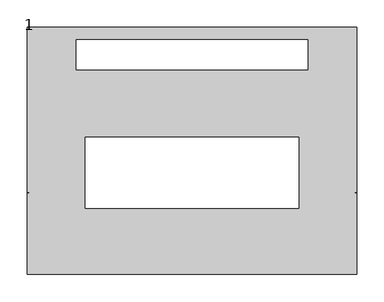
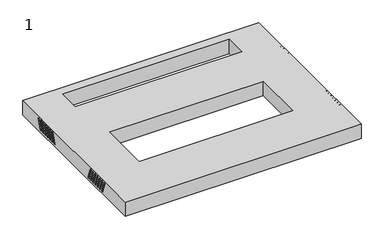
"""IFC4 building model written with IfcOpenShell, lengths in millimetres: proxy geometry, 1."""

from ifc_helpers import new_model, si_unit, frame, origin, place, context, project, spatial, polyline, circle_curve, source, transform, mapped, element, save
from ifc_brep_helpers import plane_surface, revolved_surface, advanced_brep


def proxy_1_433dcf03(model_context):
    return source(origin(), model_context, "Body", "AdvancedBrep", [
        advanced_brep(
        [(298.0, -135.8, 479.7479679), (298.0, -126.9074763, 455.3159597), (298.0, -123.1487058, 456.6840403), (298.0, -132.0412295, 481.1160484), (298.0, -125.8, 479.7479679), (298.0, -116.9074763, 455.3159597), (298.0, -113.1487058, 456.6840403), (298.0, -122.0412295, 481.1160484), (298.0, -115.8, 479.7479679), (298.0, -106.9074763, 455.3159597), (298.0, -103.1487058, 456.6840403), (298.0, -112.0412295, 481.1160484), (298.0, -105.8, 479.7479679), (298.0, -96.9074763, 455.3159597), (298.0, -93.1487058, 456.6840403), (298.0, -102.0412295, 481.1160484), (298.0, -95.8, 479.7479679), (298.0, -86.9074763, 455.3159597), (298.0, -83.1487058, 456.6840403), (298.0, -92.0412295, 481.1160484), (298.0, -85.8, 479.7479679), (298.0, -76.9074763, 455.3159597), (298.0, -73.1487058, 456.6840403), (298.0, -82.0412295, 481.1160484), (298.0, -75.8, 479.7479679), (298.0, -66.9074763, 455.3159597), (298.0, -63.1487058, 456.6840403), (298.0, -72.0412295, 481.1160484), (300.0, -132.0412295, 481.1160484), (300.0, -135.8, 479.7479679), (300.0, -123.1487058, 456.6840403), (300.0, -126.9074763, 455.3159597), (300.0, -122.0412295, 481.1160484), (300.0, -125.8, 479.7479679), (300.0, -113.1487058, 456.6840403), (300.0, -116.9074763, 455.3159597), (300.0, -112.0412295, 481.1160484), (300.0, -115.8, 479.7479679), (300.0, -103.1487058, 456.6840403), (300.0, -106.9074763, 455.3159597), (300.0, -102.0412295, 481.1160484), (300.0, -105.8, 479.7479679), (300.0, -93.1487058, 456.6840403), (300.0, -96.9074763, 455.3159597), (300.0, -92.0412295, 481.1160484), (300.0, -95.8, 479.7479679), (300.0, -83.1487058, 456.6840403), (300.0, -86.9074763, 455.3159597), (300.0, -82.0412295, 481.1160484), (300.0, -85.8, 479.7479679), (300.0, -73.1487058, 456.6840403), (300.0, -76.9074763, 455.3159597), (300.0, -72.0412295, 481.1160484), (300.0, -75.8, 479.7479679), (300.0, -63.1487058, 456.6840403), (300.0, -66.9074763, 455.3159597), (300.0, 225.0, 448.0), (300.0, -225.0, 448.0), (-300.0, -225.0, 448.0), (-300.0, 225.0, 448.0), (-211.0, 147.5, 448.0), (211.0, 147.5, 448.0), (211.0, 202.5, 448.0), (-211.0, 202.5, 448.0), (195.0, 25.0, 448.0), (-195.0, 25.0, 448.0), (-195.0, -105.0, 448.0), (195.0, -105.0, 448.0), (300.0, 225.0, 486.0), (-300.0, 225.0, 486.0), (-300.0, -225.0, 486.0), (300.0, -225.0, 486.0), (-211.0, 147.5, 486.0), (-211.0, 202.5, 486.0), (211.0, 202.5, 486.0), (211.0, 147.5, 486.0), (195.0, 25.0, 486.0), (195.0, -105.0, 486.0), (-195.0, -105.0, 486.0), (-195.0, 25.0, 486.0), (-300.0, -66.9074763, 455.3159597), (-300.0, -63.1487058, 456.6840403), (-300.0, -72.0412295, 481.1160484), (-300.0, -75.8, 479.7479679), (-300.0, -76.9074763, 455.3159597), (-300.0, -73.1487058, 456.6840403), (-300.0, -82.0412295, 481.1160484), (-300.0, -85.8, 479.7479679), (-300.0, -86.9074763, 455.3159597), (-300.0, -83.1487058, 456.6840403), (-300.0, -92.0412295, 481.1160484), (-300.0, -95.8, 479.7479679), (-300.0, -96.9074763, 455.3159597), (-300.0, -93.1487058, 456.6840403), (-300.0, -102.0412295, 481.1160484), (-300.0, -105.8, 479.7479679), (-300.0, -106.9074763, 455.3159597), (-300.0, -103.1487058, 456.6840403), (-300.0, -112.0412295, 481.1160484), (-300.0, -115.8, 479.7479679), (-300.0, -116.9074763, 455.3159597), (-300.0, -113.1487058, 456.6840403), (-300.0, -122.0412295, 481.1160484), (-300.0, -125.8, 479.7479679), (-300.0, -126.9074763, 455.3159597), (-300.0, -123.1487058, 456.6840403), (-300.0, -132.0412295, 481.1160484), (-300.0, -135.8, 479.7479679), (-300.0, 96.0, 479.7479679), (-300.0, 92.2412295, 481.1160484), (-300.0, 83.3487058, 456.6840403), (-300.0, 87.1074763, 455.3159597), (-300.0, 106.0, 479.7479679), (-300.0, 102.2412295, 481.1160484), (-300.0, 93.3487058, 456.6840403), (-300.0, 97.1074763, 455.3159597), (-300.0, 116.0, 479.7479679), (-300.0, 112.2412295, 481.1160484), (-300.0, 103.3487058, 456.6840403), (-300.0, 107.1074763, 455.3159597), (-300.0, 126.0, 479.7479679), (-300.0, 122.2412295, 481.1160484), (-300.0, 113.3487058, 456.6840403), (-300.0, 117.1074763, 455.3159597), (-300.0, 136.0, 479.7479679), (-300.0, 132.2412295, 481.1160484), (-300.0, 123.3487058, 456.6840403), (-300.0, 127.1074763, 455.3159597), (-300.0, 146.0, 479.7479679), (-300.0, 142.2412295, 481.1160484), (-300.0, 133.3487058, 456.6840403), (-300.0, 137.1074763, 455.3159597), (-300.0, 156.0, 479.7479679), (-300.0, 152.2412295, 481.1160484), (-300.0, 143.3487058, 456.6840403), (-300.0, 147.1074763, 455.3159597), (300.0, 152.2412295, 481.1160484), (300.0, 156.0, 479.7479679), (300.0, 147.1074763, 455.3159597), (300.0, 143.3487058, 456.6840403), (300.0, 142.2412295, 481.1160484), (300.0, 146.0, 479.7479679), (300.0, 137.1074763, 455.3159597), (300.0, 133.3487058, 456.6840403), (300.0, 132.2412295, 481.1160484), (300.0, 136.0, 479.7479679), (300.0, 127.1074763, 455.3159597), (300.0, 123.3487058, 456.6840403), (300.0, 122.2412295, 481.1160484), (300.0, 126.0, 479.7479679), (300.0, 117.1074763, 455.3159597), (300.0, 113.3487058, 456.6840403), (300.0, 112.2412295, 481.1160484), (300.0, 116.0, 479.7479679), (300.0, 107.1074763, 455.3159597), (300.0, 103.3487058, 456.6840403), (300.0, 102.2412295, 481.1160484), (300.0, 106.0, 479.7479679), (300.0, 97.1074763, 455.3159597), (300.0, 93.3487058, 456.6840403), (300.0, 92.2412295, 481.1160484), (300.0, 96.0, 479.7479679), (300.0, 87.1074763, 455.3159597), (300.0, 83.3487058, 456.6840403), (298.0, 156.0, 479.7479679), (298.0, 152.2412295, 481.1160484), (298.0, 143.3487058, 456.6840403), (298.0, 147.1074763, 455.3159597), (298.0, 146.0, 479.7479679), (298.0, 142.2412295, 481.1160484), (298.0, 133.3487058, 456.6840403), (298.0, 137.1074763, 455.3159597), (298.0, 136.0, 479.7479679), (298.0, 132.2412295, 481.1160484), (298.0, 123.3487058, 456.6840403), (298.0, 127.1074763, 455.3159597), (298.0, 126.0, 479.7479679), (298.0, 122.2412295, 481.1160484), (298.0, 113.3487058, 456.6840403), (298.0, 117.1074763, 455.3159597), (298.0, 116.0, 479.7479679), (298.0, 112.2412295, 481.1160484), (298.0, 103.3487058, 456.6840403), (298.0, 107.1074763, 455.3159597), (298.0, 106.0, 479.7479679), (298.0, 102.2412295, 481.1160484), (298.0, 93.3487058, 456.6840403), (298.0, 97.1074763, 455.3159597), (298.0, 96.0, 479.7479679), (298.0, 92.2412295, 481.1160484), (298.0, 83.3487058, 456.6840403), (298.0, 87.1074763, 455.3159597), (-298.0, -63.1487058, 456.6840403), (-298.0, -66.9074763, 455.3159597), (-298.0, -75.8, 479.7479679), (-298.0, -72.0412295, 481.1160484), (-298.0, -73.1487058, 456.6840403), (-298.0, -76.9074763, 455.3159597), (-298.0, -85.8, 479.7479679), (-298.0, -82.0412295, 481.1160484), (-298.0, -83.1487058, 456.6840403), (-298.0, -86.9074763, 455.3159597), (-298.0, -95.8, 479.7479679), (-298.0, -92.0412295, 481.1160484), (-298.0, -93.1487058, 456.6840403), (-298.0, -96.9074763, 455.3159597), (-298.0, -105.8, 479.7479679), (-298.0, -102.0412295, 481.1160484), (-298.0, -103.1487058, 456.6840403), (-298.0, -106.9074763, 455.3159597), (-298.0, -115.8, 479.7479679), (-298.0, -112.0412295, 481.1160484), (-298.0, -113.1487058, 456.6840403), (-298.0, -116.9074763, 455.3159597), (-298.0, -125.8, 479.7479679), (-298.0, -122.0412295, 481.1160484), (-298.0, -123.1487058, 456.6840403), (-298.0, -126.9074763, 455.3159597), (-298.0, -135.8, 479.7479679), (-298.0, -132.0412295, 481.1160484), (-298.0, 92.2412295, 481.1160484), (-298.0, 96.0, 479.7479679), (-298.0, 87.1074763, 455.3159597), (-298.0, 83.3487058, 456.6840403), (-298.0, 102.2412295, 481.1160484), (-298.0, 106.0, 479.7479679), (-298.0, 97.1074763, 455.3159597), (-298.0, 93.3487058, 456.6840403), (-298.0, 112.2412295, 481.1160484), (-298.0, 116.0, 479.7479679), (-298.0, 107.1074763, 455.3159597), (-298.0, 103.3487058, 456.6840403), (-298.0, 122.2412295, 481.1160484), (-298.0, 126.0, 479.7479679), (-298.0, 117.1074763, 455.3159597), (-298.0, 113.3487058, 456.6840403), (-298.0, 132.2412295, 481.1160484), (-298.0, 136.0, 479.7479679), (-298.0, 127.1074763, 455.3159597), (-298.0, 123.3487058, 456.6840403), (-298.0, 142.2412295, 481.1160484), (-298.0, 146.0, 479.7479679), (-298.0, 137.1074763, 455.3159597), (-298.0, 133.3487058, 456.6840403), (-298.0, 152.2412295, 481.1160484), (-298.0, 156.0, 479.7479679), (-298.0, 147.1074763, 455.3159597), (-298.0, 143.3487058, 456.6840403)],
        [
            (0, 1),
            (1, 2, circle_curve(frame((298.0, -125.028091, 456.0), z_axis=(1.0, 0.0, 0.0), x_axis=(0.0, -1.0, 0.0)), 2.0)),
            (2, 3),
            (3, 0, circle_curve(frame((298.0, -133.9206148, 480.4320081), z_axis=(1.0, 0.0, 0.0), x_axis=(0.0, -1.0, 0.0)), 2.0)),
            (4, 5),
            (5, 6, circle_curve(frame((298.0, -115.028091, 456.0), z_axis=(1.0, 0.0, 0.0), x_axis=(0.0, -1.0, 0.0)), 2.0)),
            (6, 7),
            (7, 4, circle_curve(frame((298.0, -123.9206148, 480.4320081), z_axis=(1.0, 0.0, 0.0), x_axis=(0.0, -1.0, 0.0)), 2.0)),
            (8, 9),
            (9, 10, circle_curve(frame((298.0, -105.028091, 456.0), z_axis=(1.0, 0.0, 0.0), x_axis=(0.0, -1.0, 0.0)), 2.0)),
            (10, 11),
            (11, 8, circle_curve(frame((298.0, -113.9206148, 480.4320081), z_axis=(1.0, 0.0, 0.0), x_axis=(0.0, -1.0, 0.0)), 2.0)),
            (12, 13),
            (13, 14, circle_curve(frame((298.0, -95.028091, 456.0), z_axis=(1.0, 0.0, 0.0), x_axis=(0.0, -1.0, 0.0)), 2.0)),
            (14, 15),
            (15, 12, circle_curve(frame((298.0, -103.9206148, 480.4320081), z_axis=(1.0, 0.0, 0.0), x_axis=(0.0, -1.0, 0.0)), 2.0)),
            (16, 17),
            (17, 18, circle_curve(frame((298.0, -85.028091, 456.0), z_axis=(1.0, 0.0, 0.0), x_axis=(0.0, -1.0, 0.0)), 2.0)),
            (18, 19),
            (19, 16, circle_curve(frame((298.0, -93.9206148, 480.4320081), z_axis=(1.0, 0.0, 0.0), x_axis=(0.0, -1.0, 0.0)), 2.0)),
            (20, 21),
            (21, 22, circle_curve(frame((298.0, -75.028091, 456.0), z_axis=(1.0, 0.0, 0.0), x_axis=(0.0, -1.0, 0.0)), 2.0)),
            (22, 23),
            (23, 20, circle_curve(frame((298.0, -83.9206148, 480.4320081), z_axis=(1.0, 0.0, 0.0), x_axis=(0.0, -1.0, 0.0)), 2.0)),
            (24, 25),
            (25, 26, circle_curve(frame((298.0, -65.028091, 456.0), z_axis=(1.0, 0.0, 0.0), x_axis=(0.0, -1.0, 0.0)), 2.0)),
            (26, 27),
            (27, 24, circle_curve(frame((298.0, -73.9206148, 480.4320081), z_axis=(1.0, 0.0, 0.0), x_axis=(0.0, -1.0, 0.0)), 2.0)),
            (3, 28),
            (28, 29, circle_curve(frame((300.0, -133.9206148, 480.4320081), z_axis=(1.0, 0.0, 0.0), x_axis=(0.0, -1.0, 0.0)), 2.0)),
            (29, 0),
            (2, 30),
            (30, 28),
            (1, 31),
            (31, 30, circle_curve(frame((300.0, -125.028091, 456.0), z_axis=(1.0, 0.0, 0.0), x_axis=(0.0, -1.0, 0.0)), 2.0)),
            (29, 31),
            (7, 32),
            (32, 33, circle_curve(frame((300.0, -123.9206148, 480.4320081), z_axis=(1.0, 0.0, 0.0), x_axis=(0.0, -1.0, 0.0)), 2.0)),
            (33, 4),
            (6, 34),
            (34, 32),
            (5, 35),
            (35, 34, circle_curve(frame((300.0, -115.028091, 456.0), z_axis=(1.0, 0.0, 0.0), x_axis=(0.0, -1.0, 0.0)), 2.0)),
            (33, 35),
            (11, 36),
            (36, 37, circle_curve(frame((300.0, -113.9206148, 480.4320081), z_axis=(1.0, 0.0, 0.0), x_axis=(0.0, -1.0, 0.0)), 2.0)),
            (37, 8),
            (10, 38),
            (38, 36),
            (9, 39),
            (39, 38, circle_curve(frame((300.0, -105.028091, 456.0), z_axis=(1.0, 0.0, 0.0), x_axis=(0.0, -1.0, 0.0)), 2.0)),
            (37, 39),
            (15, 40),
            (40, 41, circle_curve(frame((300.0, -103.9206148, 480.4320081), z_axis=(1.0, 0.0, 0.0), x_axis=(0.0, -1.0, 0.0)), 2.0)),
            (41, 12),
            (14, 42),
            (42, 40),
            (13, 43),
            (43, 42, circle_curve(frame((300.0, -95.028091, 456.0), z_axis=(1.0, 0.0, 0.0), x_axis=(0.0, -1.0, 0.0)), 2.0)),
            (41, 43),
            (19, 44),
            (44, 45, circle_curve(frame((300.0, -93.9206148, 480.4320081), z_axis=(1.0, 0.0, 0.0), x_axis=(0.0, -1.0, 0.0)), 2.0)),
            (45, 16),
            (18, 46),
            (46, 44),
            (17, 47),
            (47, 46, circle_curve(frame((300.0, -85.028091, 456.0), z_axis=(1.0, 0.0, 0.0), x_axis=(0.0, -1.0, 0.0)), 2.0)),
            (45, 47),
            (23, 48),
            (48, 49, circle_curve(frame((300.0, -83.9206148, 480.4320081), z_axis=(1.0, 0.0, 0.0), x_axis=(0.0, -1.0, 0.0)), 2.0)),
            (49, 20),
            (22, 50),
            (50, 48),
            (21, 51),
            (51, 50, circle_curve(frame((300.0, -75.028091, 456.0), z_axis=(1.0, 0.0, 0.0), x_axis=(0.0, -1.0, 0.0)), 2.0)),
            (49, 51),
            (27, 52),
            (52, 53, circle_curve(frame((300.0, -73.9206148, 480.4320081), z_axis=(1.0, 0.0, 0.0), x_axis=(0.0, -1.0, 0.0)), 2.0)),
            (53, 24),
            (26, 54),
            (54, 52),
            (25, 55),
            (55, 54, circle_curve(frame((300.0, -65.028091, 456.0), z_axis=(1.0, 0.0, 0.0), x_axis=(0.0, -1.0, 0.0)), 2.0)),
            (53, 55),
            (56, 57),
            (57, 58),
            (58, 59),
            (59, 56),
            (60, 61),
            (61, 62),
            (62, 63),
            (63, 60),
            (64, 65),
            (65, 66),
            (66, 67),
            (67, 64),
            (68, 69),
            (69, 70),
            (70, 71),
            (71, 68),
            (72, 73),
            (73, 74),
            (74, 75),
            (75, 72),
            (76, 77),
            (77, 78),
            (78, 79),
            (79, 76),
            (59, 69),
            (68, 56),
            (58, 70),
            (80, 81, circle_curve(frame((-300.0, -65.028091, 456.0), z_axis=(1.0, 0.0, 0.0), x_axis=(0.0, 1.0, 0.0)), 2.0)),
            (81, 82),
            (82, 83, circle_curve(frame((-300.0, -73.9206148, 480.4320081), z_axis=(1.0, 0.0, 0.0), x_axis=(0.0, 1.0, 0.0)), 2.0)),
            (83, 80),
            (84, 85, circle_curve(frame((-300.0, -75.028091, 456.0), z_axis=(1.0, 0.0, 0.0), x_axis=(0.0, 1.0, 0.0)), 2.0)),
            (85, 86),
            (86, 87, circle_curve(frame((-300.0, -83.9206148, 480.4320081), z_axis=(1.0, 0.0, 0.0), x_axis=(0.0, 1.0, 0.0)), 2.0)),
            (87, 84),
            (88, 89, circle_curve(frame((-300.0, -85.028091, 456.0), z_axis=(1.0, 0.0, 0.0), x_axis=(0.0, 1.0, 0.0)), 2.0)),
            (89, 90),
            (90, 91, circle_curve(frame((-300.0, -93.9206148, 480.4320081), z_axis=(1.0, 0.0, 0.0), x_axis=(0.0, 1.0, 0.0)), 2.0)),
            (91, 88),
            (92, 93, circle_curve(frame((-300.0, -95.028091, 456.0), z_axis=(1.0, 0.0, 0.0), x_axis=(0.0, 1.0, 0.0)), 2.0)),
            (93, 94),
            (94, 95, circle_curve(frame((-300.0, -103.9206148, 480.4320081), z_axis=(1.0, 0.0, 0.0), x_axis=(0.0, 1.0, 0.0)), 2.0)),
            (95, 92),
            (96, 97, circle_curve(frame((-300.0, -105.028091, 456.0), z_axis=(1.0, 0.0, 0.0), x_axis=(0.0, 1.0, 0.0)), 2.0)),
            (97, 98),
            (98, 99, circle_curve(frame((-300.0, -113.9206148, 480.4320081), z_axis=(1.0, 0.0, 0.0), x_axis=(0.0, 1.0, 0.0)), 2.0)),
            (99, 96),
            (100, 101, circle_curve(frame((-300.0, -115.028091, 456.0), z_axis=(1.0, 0.0, 0.0), x_axis=(0.0, 1.0, 0.0)), 2.0)),
            (101, 102),
            (102, 103, circle_curve(frame((-300.0, -123.9206148, 480.4320081), z_axis=(1.0, 0.0, 0.0), x_axis=(0.0, 1.0, 0.0)), 2.0)),
            (103, 100),
            (104, 105, circle_curve(frame((-300.0, -125.028091, 456.0), z_axis=(1.0, 0.0, 0.0), x_axis=(0.0, 1.0, 0.0)), 2.0)),
            (105, 106),
            (106, 107, circle_curve(frame((-300.0, -133.9206148, 480.4320081), z_axis=(1.0, 0.0, 0.0), x_axis=(0.0, 1.0, 0.0)), 2.0)),
            (107, 104),
            (108, 109, circle_curve(frame((-300.0, 94.1206148, 480.4320081), z_axis=(1.0, 0.0, 0.0), x_axis=(0.0, 1.0, 0.0)), 2.0)),
            (109, 110),
            (110, 111, circle_curve(frame((-300.0, 85.228091, 456.0), z_axis=(1.0, 0.0, 0.0), x_axis=(0.0, 1.0, 0.0)), 2.0)),
            (111, 108),
            (112, 113, circle_curve(frame((-300.0, 104.1206148, 480.4320081), z_axis=(1.0, 0.0, 0.0), x_axis=(0.0, 1.0, 0.0)), 2.0)),
            (113, 114),
            (114, 115, circle_curve(frame((-300.0, 95.228091, 456.0), z_axis=(1.0, 0.0, 0.0), x_axis=(0.0, 1.0, 0.0)), 2.0)),
            (115, 112),
            (116, 117, circle_curve(frame((-300.0, 114.1206148, 480.4320081), z_axis=(1.0, 0.0, 0.0), x_axis=(0.0, 1.0, 0.0)), 2.0)),
            (117, 118),
            (118, 119, circle_curve(frame((-300.0, 105.228091, 456.0), z_axis=(1.0, 0.0, 0.0), x_axis=(0.0, 1.0, 0.0)), 2.0)),
            (119, 116),
            (120, 121, circle_curve(frame((-300.0, 124.1206148, 480.4320081), z_axis=(1.0, 0.0, 0.0), x_axis=(0.0, 1.0, 0.0)), 2.0)),
            (121, 122),
            (122, 123, circle_curve(frame((-300.0, 115.228091, 456.0), z_axis=(1.0, 0.0, 0.0), x_axis=(0.0, 1.0, 0.0)), 2.0)),
            (123, 120),
            (124, 125, circle_curve(frame((-300.0, 134.1206148, 480.4320081), z_axis=(1.0, 0.0, 0.0), x_axis=(0.0, 1.0, 0.0)), 2.0)),
            (125, 126),
            (126, 127, circle_curve(frame((-300.0, 125.228091, 456.0), z_axis=(1.0, 0.0, 0.0), x_axis=(0.0, 1.0, 0.0)), 2.0)),
            (127, 124),
            (128, 129, circle_curve(frame((-300.0, 144.1206148, 480.4320081), z_axis=(1.0, 0.0, 0.0), x_axis=(0.0, 1.0, 0.0)), 2.0)),
            (129, 130),
            (130, 131, circle_curve(frame((-300.0, 135.228091, 456.0), z_axis=(1.0, 0.0, 0.0), x_axis=(0.0, 1.0, 0.0)), 2.0)),
            (131, 128),
            (132, 133, circle_curve(frame((-300.0, 154.1206148, 480.4320081), z_axis=(1.0, 0.0, 0.0), x_axis=(0.0, 1.0, 0.0)), 2.0)),
            (133, 134),
            (134, 135, circle_curve(frame((-300.0, 145.228091, 456.0), z_axis=(1.0, 0.0, 0.0), x_axis=(0.0, 1.0, 0.0)), 2.0)),
            (135, 132),
            (57, 71),
            (136, 137, circle_curve(frame((300.0, 154.1206148, 480.4320081), z_axis=(-1.0, 0.0, 0.0), x_axis=(0.0, 1.0, 0.0)), 2.0)),
            (137, 138),
            (138, 139, circle_curve(frame((300.0, 145.228091, 456.0), z_axis=(-1.0, 0.0, 0.0), x_axis=(0.0, 1.0, 0.0)), 2.0)),
            (139, 136),
            (140, 141, circle_curve(frame((300.0, 144.1206148, 480.4320081), z_axis=(-1.0, 0.0, 0.0), x_axis=(0.0, 1.0, 0.0)), 2.0)),
            (141, 142),
            (142, 143, circle_curve(frame((300.0, 135.228091, 456.0), z_axis=(-1.0, 0.0, 0.0), x_axis=(0.0, 1.0, 0.0)), 2.0)),
            (143, 140),
            (144, 145, circle_curve(frame((300.0, 134.1206148, 480.4320081), z_axis=(-1.0, 0.0, 0.0), x_axis=(0.0, 1.0, 0.0)), 2.0)),
            (145, 146),
            (146, 147, circle_curve(frame((300.0, 125.228091, 456.0), z_axis=(-1.0, 0.0, 0.0), x_axis=(0.0, 1.0, 0.0)), 2.0)),
            (147, 144),
            (148, 149, circle_curve(frame((300.0, 124.1206148, 480.4320081), z_axis=(-1.0, 0.0, 0.0), x_axis=(0.0, 1.0, 0.0)), 2.0)),
            (149, 150),
            (150, 151, circle_curve(frame((300.0, 115.228091, 456.0), z_axis=(-1.0, 0.0, 0.0), x_axis=(0.0, 1.0, 0.0)), 2.0)),
            (151, 148),
            (152, 153, circle_curve(frame((300.0, 114.1206148, 480.4320081), z_axis=(-1.0, 0.0, 0.0), x_axis=(0.0, 1.0, 0.0)), 2.0)),
            (153, 154),
            (154, 155, circle_curve(frame((300.0, 105.228091, 456.0), z_axis=(-1.0, 0.0, 0.0), x_axis=(0.0, 1.0, 0.0)), 2.0)),
            (155, 152),
            (156, 157, circle_curve(frame((300.0, 104.1206148, 480.4320081), z_axis=(-1.0, 0.0, 0.0), x_axis=(0.0, 1.0, 0.0)), 2.0)),
            (157, 158),
            (158, 159, circle_curve(frame((300.0, 95.228091, 456.0), z_axis=(-1.0, 0.0, 0.0), x_axis=(0.0, 1.0, 0.0)), 2.0)),
            (159, 156),
            (160, 161, circle_curve(frame((300.0, 94.1206148, 480.4320081), z_axis=(-1.0, 0.0, 0.0), x_axis=(0.0, 1.0, 0.0)), 2.0)),
            (161, 162),
            (162, 163, circle_curve(frame((300.0, 85.228091, 456.0), z_axis=(-1.0, 0.0, 0.0), x_axis=(0.0, 1.0, 0.0)), 2.0)),
            (163, 160),
            (63, 73),
            (72, 60),
            (62, 74),
            (61, 75),
            (67, 77),
            (76, 64),
            (66, 78),
            (65, 79),
            (164, 165, circle_curve(frame((298.0, 154.1206148, 480.4320081), z_axis=(1.0, 0.0, 0.0), x_axis=(0.0, 1.0, 0.0)), 2.0)),
            (165, 166),
            (166, 167, circle_curve(frame((298.0, 145.228091, 456.0), z_axis=(1.0, 0.0, 0.0), x_axis=(0.0, 1.0, 0.0)), 2.0)),
            (167, 164),
            (168, 169, circle_curve(frame((298.0, 144.1206148, 480.4320081), z_axis=(1.0, 0.0, 0.0), x_axis=(0.0, 1.0, 0.0)), 2.0)),
            (169, 170),
            (170, 171, circle_curve(frame((298.0, 135.228091, 456.0), z_axis=(1.0, 0.0, 0.0), x_axis=(0.0, 1.0, 0.0)), 2.0)),
            (171, 168),
            (172, 173, circle_curve(frame((298.0, 134.1206148, 480.4320081), z_axis=(1.0, 0.0, 0.0), x_axis=(0.0, 1.0, 0.0)), 2.0)),
            (173, 174),
            (174, 175, circle_curve(frame((298.0, 125.228091, 456.0), z_axis=(1.0, 0.0, 0.0), x_axis=(0.0, 1.0, 0.0)), 2.0)),
            (175, 172),
            (176, 177, circle_curve(frame((298.0, 124.1206148, 480.4320081), z_axis=(1.0, 0.0, 0.0), x_axis=(0.0, 1.0, 0.0)), 2.0)),
            (177, 178),
            (178, 179, circle_curve(frame((298.0, 115.228091, 456.0), z_axis=(1.0, 0.0, 0.0), x_axis=(0.0, 1.0, 0.0)), 2.0)),
            (179, 176),
            (180, 181, circle_curve(frame((298.0, 114.1206148, 480.4320081), z_axis=(1.0, 0.0, 0.0), x_axis=(0.0, 1.0, 0.0)), 2.0)),
            (181, 182),
            (182, 183, circle_curve(frame((298.0, 105.228091, 456.0), z_axis=(1.0, 0.0, 0.0), x_axis=(0.0, 1.0, 0.0)), 2.0)),
            (183, 180),
            (184, 185, circle_curve(frame((298.0, 104.1206148, 480.4320081), z_axis=(1.0, 0.0, 0.0), x_axis=(0.0, 1.0, 0.0)), 2.0)),
            (185, 186),
            (186, 187, circle_curve(frame((298.0, 95.228091, 456.0), z_axis=(1.0, 0.0, 0.0), x_axis=(0.0, 1.0, 0.0)), 2.0)),
            (187, 184),
            (188, 189, circle_curve(frame((298.0, 94.1206148, 480.4320081), z_axis=(1.0, 0.0, 0.0), x_axis=(0.0, 1.0, 0.0)), 2.0)),
            (189, 190),
            (190, 191, circle_curve(frame((298.0, 85.228091, 456.0), z_axis=(1.0, 0.0, 0.0), x_axis=(0.0, 1.0, 0.0)), 2.0)),
            (191, 188),
            (164, 137),
            (136, 165),
            (139, 166),
            (138, 167),
            (168, 141),
            (140, 169),
            (143, 170),
            (142, 171),
            (172, 145),
            (144, 173),
            (147, 174),
            (146, 175),
            (176, 149),
            (148, 177),
            (151, 178),
            (150, 179),
            (180, 153),
            (152, 181),
            (155, 182),
            (154, 183),
            (184, 157),
            (156, 185),
            (159, 186),
            (158, 187),
            (188, 161),
            (160, 189),
            (163, 190),
            (162, 191),
            (192, 193, circle_curve(frame((-298.0, -65.028091, 456.0), z_axis=(-1.0, 0.0, 0.0), x_axis=(0.0, 1.0, 0.0)), 2.0)),
            (193, 194),
            (194, 195, circle_curve(frame((-298.0, -73.9206148, 480.4320081), z_axis=(-1.0, 0.0, 0.0), x_axis=(0.0, 1.0, 0.0)), 2.0)),
            (195, 192),
            (196, 197, circle_curve(frame((-298.0, -75.028091, 456.0), z_axis=(-1.0, 0.0, 0.0), x_axis=(0.0, 1.0, 0.0)), 2.0)),
            (197, 198),
            (198, 199, circle_curve(frame((-298.0, -83.9206148, 480.4320081), z_axis=(-1.0, 0.0, 0.0), x_axis=(0.0, 1.0, 0.0)), 2.0)),
            (199, 196),
            (200, 201, circle_curve(frame((-298.0, -85.028091, 456.0), z_axis=(-1.0, 0.0, 0.0), x_axis=(0.0, 1.0, 0.0)), 2.0)),
            (201, 202),
            (202, 203, circle_curve(frame((-298.0, -93.9206148, 480.4320081), z_axis=(-1.0, 0.0, 0.0), x_axis=(0.0, 1.0, 0.0)), 2.0)),
            (203, 200),
            (204, 205, circle_curve(frame((-298.0, -95.028091, 456.0), z_axis=(-1.0, 0.0, 0.0), x_axis=(0.0, 1.0, 0.0)), 2.0)),
            (205, 206),
            (206, 207, circle_curve(frame((-298.0, -103.9206148, 480.4320081), z_axis=(-1.0, 0.0, 0.0), x_axis=(0.0, 1.0, 0.0)), 2.0)),
            (207, 204),
            (208, 209, circle_curve(frame((-298.0, -105.028091, 456.0), z_axis=(-1.0, 0.0, 0.0), x_axis=(0.0, 1.0, 0.0)), 2.0)),
            (209, 210),
            (210, 211, circle_curve(frame((-298.0, -113.9206148, 480.4320081), z_axis=(-1.0, 0.0, 0.0), x_axis=(0.0, 1.0, 0.0)), 2.0)),
            (211, 208),
            (212, 213, circle_curve(frame((-298.0, -115.028091, 456.0), z_axis=(-1.0, 0.0, 0.0), x_axis=(0.0, 1.0, 0.0)), 2.0)),
            (213, 214),
            (214, 215, circle_curve(frame((-298.0, -123.9206148, 480.4320081), z_axis=(-1.0, 0.0, 0.0), x_axis=(0.0, 1.0, 0.0)), 2.0)),
            (215, 212),
            (216, 217, circle_curve(frame((-298.0, -125.028091, 456.0), z_axis=(-1.0, 0.0, 0.0), x_axis=(0.0, 1.0, 0.0)), 2.0)),
            (217, 218),
            (218, 219, circle_curve(frame((-298.0, -133.9206148, 480.4320081), z_axis=(-1.0, 0.0, 0.0), x_axis=(0.0, 1.0, 0.0)), 2.0)),
            (219, 216),
            (192, 81),
            (80, 193),
            (83, 194),
            (82, 195),
            (196, 85),
            (84, 197),
            (87, 198),
            (86, 199),
            (200, 89),
            (88, 201),
            (91, 202),
            (90, 203),
            (204, 93),
            (92, 205),
            (95, 206),
            (94, 207),
            (208, 97),
            (96, 209),
            (99, 210),
            (98, 211),
            (212, 101),
            (100, 213),
            (103, 214),
            (102, 215),
            (216, 105),
            (104, 217),
            (107, 218),
            (106, 219),
            (220, 221, circle_curve(frame((-298.0, 94.1206148, 480.4320081), z_axis=(-1.0, 0.0, 0.0), x_axis=(0.0, 1.0, 0.0)), 2.0)),
            (221, 222),
            (222, 223, circle_curve(frame((-298.0, 85.228091, 456.0), z_axis=(-1.0, 0.0, 0.0), x_axis=(0.0, 1.0, 0.0)), 2.0)),
            (223, 220),
            (224, 225, circle_curve(frame((-298.0, 104.1206148, 480.4320081), z_axis=(-1.0, 0.0, 0.0), x_axis=(0.0, 1.0, 0.0)), 2.0)),
            (225, 226),
            (226, 227, circle_curve(frame((-298.0, 95.228091, 456.0), z_axis=(-1.0, 0.0, 0.0), x_axis=(0.0, 1.0, 0.0)), 2.0)),
            (227, 224),
            (228, 229, circle_curve(frame((-298.0, 114.1206148, 480.4320081), z_axis=(-1.0, 0.0, 0.0), x_axis=(0.0, 1.0, 0.0)), 2.0)),
            (229, 230),
            (230, 231, circle_curve(frame((-298.0, 105.228091, 456.0), z_axis=(-1.0, 0.0, 0.0), x_axis=(0.0, 1.0, 0.0)), 2.0)),
            (231, 228),
            (232, 233, circle_curve(frame((-298.0, 124.1206148, 480.4320081), z_axis=(-1.0, 0.0, 0.0), x_axis=(0.0, 1.0, 0.0)), 2.0)),
            (233, 234),
            (234, 235, circle_curve(frame((-298.0, 115.228091, 456.0), z_axis=(-1.0, 0.0, 0.0), x_axis=(0.0, 1.0, 0.0)), 2.0)),
            (235, 232),
            (236, 237, circle_curve(frame((-298.0, 134.1206148, 480.4320081), z_axis=(-1.0, 0.0, 0.0), x_axis=(0.0, 1.0, 0.0)), 2.0)),
            (237, 238),
            (238, 239, circle_curve(frame((-298.0, 125.228091, 456.0), z_axis=(-1.0, 0.0, 0.0), x_axis=(0.0, 1.0, 0.0)), 2.0)),
            (239, 236),
            (240, 241, circle_curve(frame((-298.0, 144.1206148, 480.4320081), z_axis=(-1.0, 0.0, 0.0), x_axis=(0.0, 1.0, 0.0)), 2.0)),
            (241, 242),
            (242, 243, circle_curve(frame((-298.0, 135.228091, 456.0), z_axis=(-1.0, 0.0, 0.0), x_axis=(0.0, 1.0, 0.0)), 2.0)),
            (243, 240),
            (244, 245, circle_curve(frame((-298.0, 154.1206148, 480.4320081), z_axis=(-1.0, 0.0, 0.0), x_axis=(0.0, 1.0, 0.0)), 2.0)),
            (245, 246),
            (246, 247, circle_curve(frame((-298.0, 145.228091, 456.0), z_axis=(-1.0, 0.0, 0.0), x_axis=(0.0, 1.0, 0.0)), 2.0)),
            (247, 244),
            (220, 109),
            (108, 221),
            (111, 222),
            (110, 223),
            (224, 113),
            (112, 225),
            (115, 226),
            (114, 227),
            (228, 117),
            (116, 229),
            (119, 230),
            (118, 231),
            (232, 121),
            (120, 233),
            (123, 234),
            (122, 235),
            (236, 125),
            (124, 237),
            (127, 238),
            (126, 239),
            (240, 129),
            (128, 241),
            (131, 242),
            (130, 243),
            (244, 133),
            (132, 245),
            (135, 246),
            (134, 247),
        ],
        [
            plane_surface(frame((298.0, -126.9074763, 455.3159597), z_axis=(1.0000000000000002, 0.0, 0.0), x_axis=(0.0, -0.3420201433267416, 0.939692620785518))),
            revolved_surface(polyline([(300.0, -135.9206148, 480.4320081), (298.0, -135.9206148, 480.4320081)]), (298.0, -133.9206148, 480.4320081), (1.0, 0.0, 0.0)),
            plane_surface(frame((300.0, -123.1487058, 456.6840403), z_axis=(0.0, -0.939692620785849, -0.34202014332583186), x_axis=(-1.0, 0.0, 0.0))),
            revolved_surface(polyline([(300.0, -127.028091, 456.0), (298.0, -127.028091, 456.0)]), (298.0, -125.028091, 456.0), (1.0, 0.0, 0.0)),
            plane_surface(frame((300.0, -135.8, 479.7479679), z_axis=(0.0, 0.939692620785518, 0.3420201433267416), x_axis=(-1.0, 0.0, 0.0))),
            revolved_surface(polyline([(300.0, -125.9206148, 480.4320081), (298.0, -125.9206148, 480.4320081)]), (300.0, -123.9206148, 480.4320081), (1.0, 0.0, 0.0)),
            plane_surface(frame((300.0, -113.1487058, 456.6840403), z_axis=(0.0, -0.9396926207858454, -0.3420201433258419), x_axis=(-1.0, 0.0, 0.0))),
            revolved_surface(polyline([(300.0, -117.028091, 456.0), (298.0, -117.028091, 456.0)]), (300.0, -115.028091, 456.0), (1.0, 0.0, 0.0)),
            plane_surface(frame((300.0, -125.8, 479.7479679), z_axis=(0.0, 0.9396926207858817, 0.3420201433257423), x_axis=(-1.0, 0.0, 0.0))),
            revolved_surface(polyline([(300.0, -115.9206148, 480.4320081), (298.0, -115.9206148, 480.4320081)]), (300.0, -113.9206148, 480.4320081), (1.0, 0.0, 0.0)),
            plane_surface(frame((300.0, -103.1487058, 456.6840403), z_axis=(0.0, -0.9396926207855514, -0.3420201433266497), x_axis=(-1.0, 0.0, 0.0))),
            revolved_surface(polyline([(300.0, -107.028091, 456.0), (298.0, -107.028091, 456.0)]), (300.0, -105.028091, 456.0), (1.0, 0.0, 0.0)),
            plane_surface(frame((300.0, -115.8, 479.7479679), z_axis=(0.0, 0.93969262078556, 0.34202014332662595), x_axis=(-1.0, 0.0, 0.0))),
            revolved_surface(polyline([(300.0, -105.9206148, 480.4320081), (298.0, -105.9206148, 480.4320081)]), (300.0, -103.9206148, 480.4320081), (1.0, 0.0, 0.0)),
            plane_surface(frame((300.0, -93.1487058, 456.6840403), z_axis=(0.0, -0.9396926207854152, -0.3420201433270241), x_axis=(-1.0, 0.0, 0.0))),
            revolved_surface(polyline([(300.0, -97.028091, 456.0), (298.0, -97.028091, 456.0)]), (300.0, -95.028091, 456.0), (1.0, 0.0, 0.0)),
            plane_surface(frame((300.0, -105.8, 479.7479679), z_axis=(0.0, 0.9396926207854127, 0.3420201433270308), x_axis=(-1.0, 0.0, 0.0))),
            revolved_surface(polyline([(300.0, -95.9206148, 480.4320081), (298.0, -95.9206148, 480.4320081)]), (300.0, -93.9206148, 480.4320081), (1.0, 0.0, 0.0)),
            plane_surface(frame((300.0, -83.1487058, 456.6840403), z_axis=(0.0, -0.9396926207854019, -0.3420201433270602), x_axis=(-1.0, 0.0, 0.0))),
            revolved_surface(polyline([(300.0, -87.028091, 456.0), (298.0, -87.028091, 456.0)]), (300.0, -85.028091, 456.0), (1.0, 0.0, 0.0)),
            plane_surface(frame((300.0, -95.8, 479.7479679), z_axis=(0.0, 0.9396926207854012, 0.3420201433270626), x_axis=(-1.0, 0.0, 0.0))),
            revolved_surface(polyline([(300.0, -85.9206148, 480.4320081), (298.0, -85.9206148, 480.4320081)]), (300.0, -83.9206148, 480.4320081), (1.0, 0.0, 0.0)),
            plane_surface(frame((300.0, -73.1487058, 456.6840403), z_axis=(0.0, -0.9396926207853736, -0.3420201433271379), x_axis=(-1.0, 0.0, 0.0))),
            revolved_surface(polyline([(300.0, -77.028091, 456.0), (298.0, -77.028091, 456.0)]), (300.0, -75.028091, 456.0), (1.0, 0.0, 0.0)),
            plane_surface(frame((300.0, -85.8, 479.7479679), z_axis=(0.0, 0.9396926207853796, 0.3420201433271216), x_axis=(-1.0, 0.0, 0.0))),
            revolved_surface(polyline([(300.0, -75.9206148, 480.4320081), (298.0, -75.9206148, 480.4320081)]), (300.0, -73.9206148, 480.4320081), (1.0, 0.0, 0.0)),
            plane_surface(frame((300.0, -63.1487058, 456.6840403), z_axis=(0.0, -0.9396926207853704, -0.3420201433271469), x_axis=(-1.0, 0.0, 0.0))),
            revolved_surface(polyline([(300.0, -67.028091, 456.0), (298.0, -67.028091, 456.0)]), (300.0, -65.028091, 456.0), (1.0, 0.0, 0.0)),
            plane_surface(frame((300.0, -75.8, 479.7479679), z_axis=(0.0, 0.9396926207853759, 0.3420201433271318), x_axis=(-1.0, 0.0, 0.0))),
            plane_surface(frame((-300.0, 225.0, 448.0), z_axis=(0.0, 0.0, -1.0), x_axis=(1.0, 0.0, 0.0))),
            plane_surface(frame((-300.0, 225.0, 486.0), z_axis=(0.0, 0.0, 1.0), x_axis=(-1.0, 0.0, 0.0))),
            plane_surface(frame((300.0, 225.0, 486.0), z_axis=(0.0, 1.0, 0.0), x_axis=(0.0, 0.0, -1.0))),
            plane_surface(frame((-300.0, 225.0, 486.0), z_axis=(-1.0, 0.0, 0.0), x_axis=(0.0, 0.0, -1.0))),
            plane_surface(frame((-300.0, -225.0, 486.0), z_axis=(0.0, -1.0, 0.0), x_axis=(0.0, 0.0, -1.0))),
            plane_surface(frame((300.0, -225.0, 486.0), z_axis=(1.0, 0.0, 0.0), x_axis=(0.0, 0.0, -1.0))),
            plane_surface(frame((-211.0, 147.5, 486.0), z_axis=(1.0, 0.0, 0.0), x_axis=(0.0, 0.0, -1.0))),
            plane_surface(frame((-211.0, 202.5, 486.0), z_axis=(0.0, -1.0, 0.0), x_axis=(0.0, 0.0, -1.0))),
            plane_surface(frame((211.0, 202.5, 486.0), z_axis=(-1.0, 0.0, 0.0), x_axis=(0.0, 0.0, -1.0))),
            plane_surface(frame((211.0, 147.5, 486.0), z_axis=(0.0, 1.0, 0.0), x_axis=(0.0, 0.0, -1.0))),
            plane_surface(frame((195.0, 25.0, 486.0), z_axis=(-1.0, 0.0, 0.0), x_axis=(0.0, 0.0, -1.0))),
            plane_surface(frame((195.0, -105.0, 486.0), z_axis=(0.0, 1.0, 0.0), x_axis=(0.0, 0.0, -1.0))),
            plane_surface(frame((-195.0, -105.0, 486.0), z_axis=(1.0, 0.0, 0.0), x_axis=(0.0, 0.0, -1.0))),
            plane_surface(frame((-195.0, 25.0, 486.0), z_axis=(0.0, -1.0, 0.0), x_axis=(0.0, 0.0, -1.0))),
            plane_surface(frame((298.0, 156.1206148, 480.4320081), z_axis=(1.0, 0.0, 0.0), x_axis=(0.0, 0.0, -1.0))),
            revolved_surface(polyline([(300.0, 156.1206148, 480.4320081), (298.0, 156.1206148, 480.4320081)]), (298.0, 154.1206148, 480.4320081), (1.0, 0.0, 0.0)),
            plane_surface(frame((300.0, 152.2412295, 481.1160484), z_axis=(0.0, 0.9396926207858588, -0.3420201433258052), x_axis=(-1.0, 0.0, 0.0))),
            revolved_surface(polyline([(300.0, 147.228091, 456.0), (298.0, 147.228091, 456.0)]), (298.0, 145.228091, 456.0), (1.0, 0.0, 0.0)),
            plane_surface(frame((300.0, 147.1074763, 455.3159597), z_axis=(0.0, -0.9396926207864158, 0.3420201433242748), x_axis=(-1.0, 0.0, 0.0))),
            revolved_surface(polyline([(300.0, 146.1206148, 480.4320081), (298.0, 146.1206148, 480.4320081)]), (300.0, 144.1206148, 480.4320081), (1.0, 0.0, 0.0)),
            plane_surface(frame((300.0, 142.2412295, 481.1160484), z_axis=(0.0, 0.9396926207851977, -0.3420201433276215), x_axis=(-1.0, 0.0, 0.0))),
            revolved_surface(polyline([(300.0, 137.228091, 456.0), (298.0, 137.228091, 456.0)]), (300.0, 135.228091, 456.0), (1.0, 0.0, 0.0)),
            plane_surface(frame((300.0, 137.1074763, 455.3159597), z_axis=(0.0, -0.9396926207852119, 0.34202014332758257), x_axis=(-1.0, 0.0, 0.0))),
            revolved_surface(polyline([(300.0, 136.1206148, 480.4320081), (298.0, 136.1206148, 480.4320081)]), (300.0, 134.1206148, 480.4320081), (1.0, 0.0, 0.0)),
            plane_surface(frame((300.0, 132.2412295, 481.1160484), z_axis=(0.0, 0.9396926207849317, -0.34202014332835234), x_axis=(-1.0, 0.0, 0.0))),
            revolved_surface(polyline([(300.0, 127.228091, 456.0), (298.0, 127.228091, 456.0)]), (300.0, 125.228091, 456.0), (1.0, 0.0, 0.0)),
            plane_surface(frame((300.0, 127.1074763, 455.3159597), z_axis=(0.0, -0.9396926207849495, 0.3420201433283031), x_axis=(-1.0, 0.0, 0.0))),
            revolved_surface(polyline([(300.0, 126.1206148, 480.4320081), (298.0, 126.1206148, 480.4320081)]), (300.0, 124.1206148, 480.4320081), (1.0, 0.0, 0.0)),
            plane_surface(frame((300.0, 122.2412295, 481.1160484), z_axis=(0.0, 0.9396926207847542, -0.34202014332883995), x_axis=(-1.0, 0.0, 0.0))),
            revolved_surface(polyline([(300.0, 117.228091, 456.0), (298.0, 117.228091, 456.0)]), (300.0, 115.228091, 456.0), (1.0, 0.0, 0.0)),
            plane_surface(frame((300.0, 117.1074763, 455.3159597), z_axis=(0.0, -0.9396926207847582, 0.342020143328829), x_axis=(-1.0, 0.0, 0.0))),
            revolved_surface(polyline([(300.0, 116.1206148, 480.4320081), (298.0, 116.1206148, 480.4320081)]), (300.0, 114.1206148, 480.4320081), (1.0, 0.0, 0.0)),
            plane_surface(frame((300.0, 112.2412295, 481.1160484), z_axis=(0.0, 0.9396926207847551, -0.34202014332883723), x_axis=(-1.0, 0.0, 0.0))),
            revolved_surface(polyline([(300.0, 107.228091, 456.0), (298.0, 107.228091, 456.0)]), (300.0, 105.228091, 456.0), (1.0, 0.0, 0.0)),
            plane_surface(frame((300.0, 107.1074763, 455.3159597), z_axis=(0.0, -0.9396926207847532, 0.34202014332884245), x_axis=(-1.0, 0.0, 0.0))),
            revolved_surface(polyline([(300.0, 106.1206148, 480.4320081), (298.0, 106.1206148, 480.4320081)]), (300.0, 104.1206148, 480.4320081), (1.0, 0.0, 0.0)),
            plane_surface(frame((300.0, 102.2412295, 481.1160484), z_axis=(0.0, 0.9396926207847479, -0.3420201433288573), x_axis=(-1.0, 0.0, 0.0))),
            revolved_surface(polyline([(300.0, 97.228091, 456.0), (298.0, 97.228091, 456.0)]), (300.0, 95.228091, 456.0), (1.0, 0.0, 0.0)),
            plane_surface(frame((300.0, 97.1074763, 455.3159597), z_axis=(0.0, -0.939692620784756, 0.342020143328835), x_axis=(-1.0, 0.0, 0.0))),
            revolved_surface(polyline([(300.0, 96.1206148, 480.4320081), (298.0, 96.1206148, 480.4320081)]), (300.0, 94.1206148, 480.4320081), (1.0, 0.0, 0.0)),
            plane_surface(frame((300.0, 92.2412295, 481.1160484), z_axis=(0.0, 0.9396926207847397, -0.3420201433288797), x_axis=(-1.0, 0.0, 0.0))),
            revolved_surface(polyline([(300.0, 87.228091, 456.0), (298.0, 87.228091, 456.0)]), (300.0, 85.228091, 456.0), (1.0, 0.0, 0.0)),
            plane_surface(frame((300.0, 87.1074763, 455.3159597), z_axis=(0.0, -0.9396926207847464, 0.3420201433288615), x_axis=(-1.0, 0.0, 0.0))),
            plane_surface(frame((-298.0, -72.0412295, 481.1160484), z_axis=(-1.0, 0.0, 0.0), x_axis=(0.0, -0.34202014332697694, 0.9396926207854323))),
            revolved_surface(polyline([(-298.0, -63.028091, 456.0), (-300.0, -63.028091, 456.0)]), (-300.0, -65.028091, 456.0), (1.0, 0.0, 0.0)),
            plane_surface(frame((-298.0, -75.8, 479.7479679), z_axis=(0.0, 0.9396926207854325, 0.3420201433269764), x_axis=(-1.0, 0.0, 0.0))),
            revolved_surface(polyline([(-298.0, -71.9206148, 480.4320081), (-300.0, -71.9206148, 480.4320081)]), (-300.0, -73.9206148, 480.4320081), (1.0, 0.0, 0.0)),
            plane_surface(frame((-298.0, -63.1487058, 456.6840403), z_axis=(0.0, -0.9396926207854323, -0.34202014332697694), x_axis=(-1.0, 0.0, 0.0))),
            revolved_surface(polyline([(-298.0, -73.028091, 456.0), (-300.0, -73.028091, 456.0)]), (-300.0, -75.028091, 456.0), (1.0, 0.0, 0.0)),
            plane_surface(frame((-298.0, -85.8, 479.7479679), z_axis=(0.0, 0.9396926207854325, 0.34202014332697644), x_axis=(-1.0, 0.0, 0.0))),
            revolved_surface(polyline([(-298.0, -81.9206148, 480.4320081), (-300.0, -81.9206148, 480.4320081)]), (-300.0, -83.9206148, 480.4320081), (1.0, 0.0, 0.0)),
            plane_surface(frame((-298.0, -73.1487058, 456.6840403), z_axis=(0.0, -0.9396926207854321, -0.34202014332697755), x_axis=(-1.0, 0.0, 0.0))),
            revolved_surface(polyline([(-298.0, -83.028091, 456.0), (-300.0, -83.028091, 456.0)]), (-300.0, -85.028091, 456.0), (1.0, 0.0, 0.0)),
            plane_surface(frame((-298.0, -95.8, 479.7479679), z_axis=(0.0, 0.9396926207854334, 0.34202014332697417), x_axis=(-1.0, 0.0, 0.0))),
            revolved_surface(polyline([(-298.0, -91.9206148, 480.4320081), (-300.0, -91.9206148, 480.4320081)]), (-300.0, -93.9206148, 480.4320081), (1.0, 0.0, 0.0)),
            plane_surface(frame((-298.0, -83.1487058, 456.6840403), z_axis=(0.0, -0.9396926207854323, -0.342020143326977), x_axis=(-1.0, 0.0, 0.0))),
            revolved_surface(polyline([(-298.0, -93.028091, 456.0), (-300.0, -93.028091, 456.0)]), (-300.0, -95.028091, 456.0), (1.0, 0.0, 0.0)),
            plane_surface(frame((-298.0, -105.8, 479.7479679), z_axis=(0.0, 0.9396926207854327, 0.34202014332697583), x_axis=(-1.0, 0.0, 0.0))),
            revolved_surface(polyline([(-298.0, -101.9206148, 480.4320081), (-300.0, -101.9206148, 480.4320081)]), (-300.0, -103.9206148, 480.4320081), (1.0, 0.0, 0.0)),
            plane_surface(frame((-298.0, -93.1487058, 456.6840403), z_axis=(0.0, -0.9396926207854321, -0.34202014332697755), x_axis=(-1.0, 0.0, 0.0))),
            revolved_surface(polyline([(-298.0, -103.028091, 456.0), (-300.0, -103.028091, 456.0)]), (-300.0, -105.028091, 456.0), (1.0, 0.0, 0.0)),
            plane_surface(frame((-298.0, -115.8, 479.7479679), z_axis=(0.0, 0.9396926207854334, 0.3420201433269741), x_axis=(-1.0, 0.0, 0.0))),
            revolved_surface(polyline([(-298.0, -111.9206148, 480.4320081), (-300.0, -111.9206148, 480.4320081)]), (-300.0, -113.9206148, 480.4320081), (1.0, 0.0, 0.0)),
            plane_surface(frame((-298.0, -103.1487058, 456.6840403), z_axis=(0.0, -0.9396926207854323, -0.34202014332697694), x_axis=(-1.0, 0.0, 0.0))),
            revolved_surface(polyline([(-298.0, -113.028091, 456.0), (-300.0, -113.028091, 456.0)]), (-300.0, -115.028091, 456.0), (1.0, 0.0, 0.0)),
            plane_surface(frame((-298.0, -125.8, 479.7479679), z_axis=(0.0, 0.9396926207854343, 0.3420201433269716), x_axis=(-1.0, 0.0, 0.0))),
            revolved_surface(polyline([(-298.0, -121.9206148, 480.4320081), (-300.0, -121.9206148, 480.4320081)]), (-300.0, -123.9206148, 480.4320081), (1.0, 0.0, 0.0)),
            plane_surface(frame((-298.0, -113.1487058, 456.6840403), z_axis=(0.0, -0.9396926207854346, -0.34202014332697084), x_axis=(-1.0, 0.0, 0.0))),
            revolved_surface(polyline([(-298.0, -123.028091, 456.0), (-300.0, -123.028091, 456.0)]), (-300.0, -125.028091, 456.0), (1.0, 0.0, 0.0)),
            plane_surface(frame((-298.0, -135.8, 479.7479679), z_axis=(0.0, 0.9396926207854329, 0.34202014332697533), x_axis=(-1.0, 0.0, 0.0))),
            revolved_surface(polyline([(-298.0, -131.9206148, 480.4320081), (-300.0, -131.9206148, 480.4320081)]), (-300.0, -133.9206148, 480.4320081), (1.0, 0.0, 0.0)),
            plane_surface(frame((-298.0, -123.1487058, 456.6840403), z_axis=(0.0, -0.9396926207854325, -0.34202014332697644), x_axis=(-1.0, 0.0, 0.0))),
            plane_surface(frame((-298.0, 83.3487058, 456.6840403), z_axis=(-1.0, 0.0, 0.0), x_axis=(0.0, -0.34202014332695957, -0.9396926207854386))),
            revolved_surface(polyline([(-298.0, 96.1206148, 480.4320081), (-300.0, 96.1206148, 480.4320081)]), (-300.0, 94.1206148, 480.4320081), (1.0, 0.0, 0.0)),
            plane_surface(frame((-298.0, 87.1074763, 455.3159597), z_axis=(0.0, -0.9396926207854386, 0.34202014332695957), x_axis=(-1.0, 0.0, 0.0))),
            revolved_surface(polyline([(-298.0, 87.228091, 456.0), (-300.0, 87.228091, 456.0)]), (-300.0, 85.228091, 456.0), (1.0, 0.0, 0.0)),
            plane_surface(frame((-298.0, 92.2412295, 481.1160484), z_axis=(0.0, 0.9396926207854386, -0.34202014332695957), x_axis=(-1.0, 0.0, 0.0))),
            revolved_surface(polyline([(-298.0, 106.1206148, 480.4320081), (-300.0, 106.1206148, 480.4320081)]), (-300.0, 104.1206148, 480.4320081), (1.0, 0.0, 0.0)),
            plane_surface(frame((-298.0, 97.1074763, 455.3159597), z_axis=(0.0, -0.9396926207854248, 0.3420201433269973), x_axis=(-1.0, 0.0, 0.0))),
            revolved_surface(polyline([(-298.0, 97.228091, 456.0), (-300.0, 97.228091, 456.0)]), (-300.0, 95.228091, 456.0), (1.0, 0.0, 0.0)),
            plane_surface(frame((-298.0, 102.2412295, 481.1160484), z_axis=(0.0, 0.9396926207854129, -0.34202014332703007), x_axis=(-1.0, 0.0, 0.0))),
            revolved_surface(polyline([(-298.0, 116.1206148, 480.4320081), (-300.0, 116.1206148, 480.4320081)]), (-300.0, 114.1206148, 480.4320081), (1.0, 0.0, 0.0)),
            plane_surface(frame((-298.0, 107.1074763, 455.3159597), z_axis=(0.0, -0.9396926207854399, 0.3420201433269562), x_axis=(-1.0, 0.0, 0.0))),
            revolved_surface(polyline([(-298.0, 107.228091, 456.0), (-300.0, 107.228091, 456.0)]), (-300.0, 105.228091, 456.0), (1.0, 0.0, 0.0)),
            plane_surface(frame((-298.0, 112.2412295, 481.1160484), z_axis=(0.0, 0.9396926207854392, -0.34202014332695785), x_axis=(-1.0, 0.0, 0.0))),
            revolved_surface(polyline([(-298.0, 126.1206148, 480.4320081), (-300.0, 126.1206148, 480.4320081)]), (-300.0, 124.1206148, 480.4320081), (1.0, 0.0, 0.0)),
            plane_surface(frame((-298.0, 117.1074763, 455.3159597), z_axis=(0.0, -0.9396926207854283, 0.34202014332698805), x_axis=(-1.0, 0.0, 0.0))),
            revolved_surface(polyline([(-298.0, 117.228091, 456.0), (-300.0, 117.228091, 456.0)]), (-300.0, 115.228091, 456.0), (1.0, 0.0, 0.0)),
            plane_surface(frame((-298.0, 122.2412295, 481.1160484), z_axis=(0.0, 0.9396926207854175, -0.3420201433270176), x_axis=(-1.0, 0.0, 0.0))),
            revolved_surface(polyline([(-298.0, 136.1206148, 480.4320081), (-300.0, 136.1206148, 480.4320081)]), (-300.0, 134.1206148, 480.4320081), (1.0, 0.0, 0.0)),
            plane_surface(frame((-298.0, 127.1074763, 455.3159597), z_axis=(0.0, -0.939692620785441, 0.342020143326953), x_axis=(-1.0, 0.0, 0.0))),
            revolved_surface(polyline([(-298.0, 127.228091, 456.0), (-300.0, 127.228091, 456.0)]), (-300.0, 125.228091, 456.0), (1.0, 0.0, 0.0)),
            plane_surface(frame((-298.0, 132.2412295, 481.1160484), z_axis=(0.0, 0.9396926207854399, -0.34202014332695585), x_axis=(-1.0, 0.0, 0.0))),
            revolved_surface(polyline([(-298.0, 146.1206148, 480.4320081), (-300.0, 146.1206148, 480.4320081)]), (-300.0, 144.1206148, 480.4320081), (1.0, 0.0, 0.0)),
            plane_surface(frame((-298.0, 137.1074763, 455.3159597), z_axis=(0.0, -0.9396926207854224, 0.34202014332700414), x_axis=(-1.0, 0.0, 0.0))),
            revolved_surface(polyline([(-298.0, 137.228091, 456.0), (-300.0, 137.228091, 456.0)]), (-300.0, 135.228091, 456.0), (1.0, 0.0, 0.0)),
            plane_surface(frame((-298.0, 142.2412295, 481.1160484), z_axis=(0.0, 0.9396926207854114, -0.34202014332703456), x_axis=(-1.0, 0.0, 0.0))),
            revolved_surface(polyline([(-298.0, 156.1206148, 480.4320081), (-300.0, 156.1206148, 480.4320081)]), (-300.0, 154.1206148, 480.4320081), (1.0, 0.0, 0.0)),
            plane_surface(frame((-298.0, 147.1074763, 455.3159597), z_axis=(0.0, -0.9396926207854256, 0.3420201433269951), x_axis=(-1.0, 0.0, 0.0))),
            revolved_surface(polyline([(-298.0, 147.228091, 456.0), (-300.0, 147.228091, 456.0)]), (-300.0, 145.228091, 456.0), (1.0, 0.0, 0.0)),
            plane_surface(frame((-298.0, 152.2412295, 481.1160484), z_axis=(0.0, 0.9396926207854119, -0.34202014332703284), x_axis=(-1.0, 0.0, 0.0))),
        ],
        [
            (0, [[1, 2, 3, 4]]),
            (0, [[5, 6, 7, 8]]),
            (0, [[9, 10, 11, 12]]),
            (0, [[13, 14, 15, 16]]),
            (0, [[17, 18, 19, 20]]),
            (0, [[21, 22, 23, 24]]),
            (0, [[25, 26, 27, 28]]),
            (1, [[-4, 29, 30, 31]]),
            (2, [[-3, 32, 33, -29]]),
            (3, [[-2, 34, 35, -32]]),
            (4, [[-1, -31, 36, -34]]),
            (5, [[-8, 37, 38, 39]]),
            (6, [[-7, 40, 41, -37]]),
            (7, [[-6, 42, 43, -40]]),
            (8, [[-5, -39, 44, -42]]),
            (9, [[-12, 45, 46, 47]]),
            (10, [[-11, 48, 49, -45]]),
            (11, [[-10, 50, 51, -48]]),
            (12, [[-9, -47, 52, -50]]),
            (13, [[-16, 53, 54, 55]]),
            (14, [[-15, 56, 57, -53]]),
            (15, [[-14, 58, 59, -56]]),
            (16, [[-13, -55, 60, -58]]),
            (17, [[-20, 61, 62, 63]]),
            (18, [[-19, 64, 65, -61]]),
            (19, [[-18, 66, 67, -64]]),
            (20, [[-17, -63, 68, -66]]),
            (21, [[-24, 69, 70, 71]]),
            (22, [[-23, 72, 73, -69]]),
            (23, [[-22, 74, 75, -72]]),
            (24, [[-21, -71, 76, -74]]),
            (25, [[-28, 77, 78, 79]]),
            (26, [[-27, 80, 81, -77]]),
            (27, [[-26, 82, 83, -80]]),
            (28, [[-25, -79, 84, -82]]),
            (29, [[85, 86, 87, 88], [89, 90, 91, 92], [93, 94, 95, 96]]),
            (30, [[97, 98, 99, 100], [101, 102, 103, 104], [105, 106, 107, 108]]),
            (31, [[-88, 109, -97, 110]]),
            (32, [[-87, 111, -98, -109], [112, 113, 114, 115], [116, 117, 118, 119], [120, 121, 122, 123], [124, 125, 126, 127], [128, 129, 130, 131], [132, 133, 134, 135], [136, 137, 138, 139], [140, 141, 142, 143], [144, 145, 146, 147], [148, 149, 150, 151], [152, 153, 154, 155], [156, 157, 158, 159], [160, 161, 162, 163], [164, 165, 166, 167]]),
            (33, [[-86, 168, -99, -111]]),
            (34, [[-85, -110, -100, -168], [-30, -33, -35, -36], [-38, -41, -43, -44], [-46, -49, -51, -52], [-54, -57, -59, -60], [-62, -65, -67, -68], [-70, -73, -75, -76], [-78, -81, -83, -84], [169, 170, 171, 172], [173, 174, 175, 176], [177, 178, 179, 180], [181, 182, 183, 184], [185, 186, 187, 188], [189, 190, 191, 192], [193, 194, 195, 196]]),
            (35, [[-92, 197, -101, 198]]),
            (36, [[-91, 199, -102, -197]]),
            (37, [[-90, 200, -103, -199]]),
            (38, [[-89, -198, -104, -200]]),
            (39, [[-96, 201, -105, 202]]),
            (40, [[-95, 203, -106, -201]]),
            (41, [[-94, 204, -107, -203]]),
            (42, [[-93, -202, -108, -204]]),
            (43, [[205, 206, 207, 208]]),
            (43, [[209, 210, 211, 212]]),
            (43, [[213, 214, 215, 216]]),
            (43, [[217, 218, 219, 220]]),
            (43, [[221, 222, 223, 224]]),
            (43, [[225, 226, 227, 228]]),
            (43, [[229, 230, 231, 232]]),
            (44, [[-205, 233, -169, 234]]),
            (45, [[-206, -234, -172, 235]]),
            (46, [[-207, -235, -171, 236]]),
            (47, [[-208, -236, -170, -233]]),
            (48, [[-209, 237, -173, 238]]),
            (49, [[-210, -238, -176, 239]]),
            (50, [[-211, -239, -175, 240]]),
            (51, [[-212, -240, -174, -237]]),
            (52, [[-213, 241, -177, 242]]),
            (53, [[-214, -242, -180, 243]]),
            (54, [[-215, -243, -179, 244]]),
            (55, [[-216, -244, -178, -241]]),
            (56, [[-217, 245, -181, 246]]),
            (57, [[-218, -246, -184, 247]]),
            (58, [[-219, -247, -183, 248]]),
            (59, [[-220, -248, -182, -245]]),
            (60, [[-221, 249, -185, 250]]),
            (61, [[-222, -250, -188, 251]]),
            (62, [[-223, -251, -187, 252]]),
            (63, [[-224, -252, -186, -249]]),
            (64, [[-225, 253, -189, 254]]),
            (65, [[-226, -254, -192, 255]]),
            (66, [[-227, -255, -191, 256]]),
            (67, [[-228, -256, -190, -253]]),
            (68, [[-229, 257, -193, 258]]),
            (69, [[-230, -258, -196, 259]]),
            (70, [[-231, -259, -195, 260]]),
            (71, [[-232, -260, -194, -257]]),
            (72, [[261, 262, 263, 264]]),
            (72, [[265, 266, 267, 268]]),
            (72, [[269, 270, 271, 272]]),
            (72, [[273, 274, 275, 276]]),
            (72, [[277, 278, 279, 280]]),
            (72, [[281, 282, 283, 284]]),
            (72, [[285, 286, 287, 288]]),
            (73, [[-261, 289, -112, 290]]),
            (74, [[-262, -290, -115, 291]]),
            (75, [[-263, -291, -114, 292]]),
            (76, [[-264, -292, -113, -289]]),
            (77, [[-265, 293, -116, 294]]),
            (78, [[-266, -294, -119, 295]]),
            (79, [[-267, -295, -118, 296]]),
            (80, [[-268, -296, -117, -293]]),
            (81, [[-269, 297, -120, 298]]),
            (82, [[-270, -298, -123, 299]]),
            (83, [[-271, -299, -122, 300]]),
            (84, [[-272, -300, -121, -297]]),
            (85, [[-273, 301, -124, 302]]),
            (86, [[-274, -302, -127, 303]]),
            (87, [[-275, -303, -126, 304]]),
            (88, [[-276, -304, -125, -301]]),
            (89, [[-277, 305, -128, 306]]),
            (90, [[-278, -306, -131, 307]]),
            (91, [[-279, -307, -130, 308]]),
            (92, [[-280, -308, -129, -305]]),
            (93, [[-281, 309, -132, 310]]),
            (94, [[-282, -310, -135, 311]]),
            (95, [[-283, -311, -134, 312]]),
            (96, [[-284, -312, -133, -309]]),
            (97, [[-285, 313, -136, 314]]),
            (98, [[-286, -314, -139, 315]]),
            (99, [[-287, -315, -138, 316]]),
            (100, [[-288, -316, -137, -313]]),
            (101, [[317, 318, 319, 320]]),
            (101, [[321, 322, 323, 324]]),
            (101, [[325, 326, 327, 328]]),
            (101, [[329, 330, 331, 332]]),
            (101, [[333, 334, 335, 336]]),
            (101, [[337, 338, 339, 340]]),
            (101, [[341, 342, 343, 344]]),
            (102, [[-317, 345, -140, 346]]),
            (103, [[-318, -346, -143, 347]]),
            (104, [[-319, -347, -142, 348]]),
            (105, [[-320, -348, -141, -345]]),
            (106, [[-321, 349, -144, 350]]),
            (107, [[-322, -350, -147, 351]]),
            (108, [[-323, -351, -146, 352]]),
            (109, [[-324, -352, -145, -349]]),
            (110, [[-325, 353, -148, 354]]),
            (111, [[-326, -354, -151, 355]]),
            (112, [[-327, -355, -150, 356]]),
            (113, [[-328, -356, -149, -353]]),
            (114, [[-329, 357, -152, 358]]),
            (115, [[-330, -358, -155, 359]]),
            (116, [[-331, -359, -154, 360]]),
            (117, [[-332, -360, -153, -357]]),
            (118, [[-333, 361, -156, 362]]),
            (119, [[-334, -362, -159, 363]]),
            (120, [[-335, -363, -158, 364]]),
            (121, [[-336, -364, -157, -361]]),
            (122, [[-337, 365, -160, 366]]),
            (123, [[-338, -366, -163, 367]]),
            (124, [[-339, -367, -162, 368]]),
            (125, [[-340, -368, -161, -365]]),
            (126, [[-341, 369, -164, 370]]),
            (127, [[-342, -370, -167, 371]]),
            (128, [[-343, -371, -166, 372]]),
            (129, [[-344, -372, -165, -369]]),
        ],
    ),
    ])


if __name__ == "__main__":
    model = new_model("IFC4")
    model_context = context("Model", 3, world=origin())
    ifc_project = project(units=[si_unit("LENGTHUNIT", "METRE", prefix="MILLI")], contexts=[model_context])
    site = spatial("IfcSite", under=ifc_project)
    building = spatial("IfcBuilding", under=site)
    placement = place(None, origin())
    proxy_1_shape = proxy_1_433dcf03(model_context)
    element("IfcBuildingElementProxy", 1, Name="1", ObjectType="1", at=placement, inside=building, context=model_context, shape_type="MappedRepresentation", body=[
        mapped(proxy_1_shape, transform((0.0, 0.0, 0.0), x_axis=(1.0, 0.0, 0.0), y_axis=(0.0, 1.0, 0.0), z_axis=(0.0, 0.0, 1.0))),
    ])
    save(model, "model.ifc")
